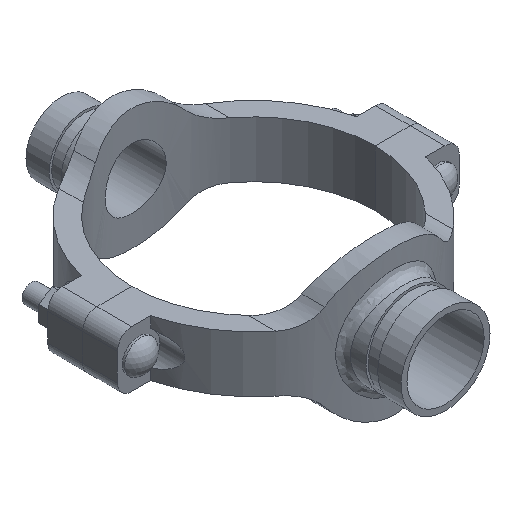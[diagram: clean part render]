
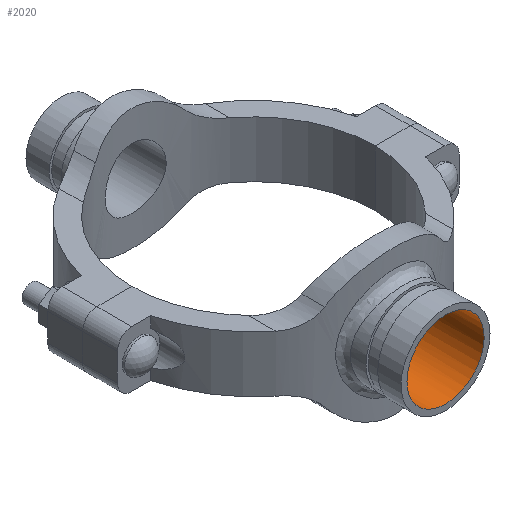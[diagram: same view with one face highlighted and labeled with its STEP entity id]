
A CAD part, isometric view. The second image highlights one B-rep face of the part: STEP entity #2020.
In plain terms, the highlighted cylindrical face has radius 26.194 mm (diameter 52.387 mm), a full revolution.
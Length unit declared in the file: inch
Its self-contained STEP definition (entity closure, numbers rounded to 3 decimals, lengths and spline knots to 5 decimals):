
#52=B_SPLINE_CURVE_WITH_KNOTS('',3,(#4076,#4077,#4078,#4079,#4080,#4081,
#4082,#4083,#4084,#4085,#4086,#4087,#4088,#4089,#4090,#4091,#4092,#4093,
#4094,#4095,#4096,#4097,#4098,#4099,#4100,#4101,#4102,#4103,#4104,#4105,
#4106,#4107,#4108,#4109,#4110,#4111,#4112,#4113,#4114,#4115,#4116,#4117,
#4118,#4119,#4120,#4121,#4122,#4123,#4124,#4125,#4126,#4127,#4128,#4129,
#4130,#4131,#4132,#4133,#4134,#4135,#4136,#4137,#4138,#4139,#4140,#4141),
 .UNSPECIFIED.,.T.,.F.,(4,2,2,2,2,2,2,2,2,2,2,2,2,2,2,2,2,2,2,2,2,2,2,2,
2,2,2,2,2,2,2,2,4),(0.,0.49717,0.99434,1.49151,
1.98868,2.48566,2.98264,3.47962,3.9766,
4.47359,4.97057,5.46755,5.96453,6.4617,
6.95887,7.45604,7.95321,8.45038,8.94755,
9.44472,9.94188,10.43887,10.93585,11.43283,
11.92981,12.42679,12.92378,13.42076,13.91774,
14.41491,14.91208,15.40925,15.90642),
 .UNSPECIFIED.);
#99=CYLINDRICAL_SURFACE('',#2261,1.03125);
#218=FACE_OUTER_BOUND('',#342,.T.);
#342=EDGE_LOOP('',(#1624,#1625,#1626,#1627));
#494=LINE('',#4075,#644);
#644=VECTOR('',#2736,1.03125);
#748=CIRCLE('',#2262,1.03125);
#917=VERTEX_POINT('',#4072);
#918=VERTEX_POINT('',#4074);
#1168=EDGE_CURVE('',#917,#917,#748,.T.);
#1169=EDGE_CURVE('',#917,#918,#494,.T.);
#1170=EDGE_CURVE('',#918,#918,#52,.T.);
#1624=ORIENTED_EDGE('',*,*,#1168,.F.);
#1625=ORIENTED_EDGE('',*,*,#1169,.T.);
#1626=ORIENTED_EDGE('',*,*,#1170,.F.);
#1627=ORIENTED_EDGE('',*,*,#1169,.F.);
#2020=ADVANCED_FACE('',(#218),#99,.F.);
#2261=AXIS2_PLACEMENT_3D('',#4071,#2732,#2733);
#2262=AXIS2_PLACEMENT_3D('',#4073,#2734,#2735);
#2732=DIRECTION('center_axis',(0.,-1.,0.));
#2733=DIRECTION('ref_axis',(-1.,0.,0.));
#2734=DIRECTION('center_axis',(0.,-1.,0.));
#2735=DIRECTION('ref_axis',(-1.,0.,0.));
#2736=DIRECTION('',(0.,-1.,0.));
#4071=CARTESIAN_POINT('Origin',(0.,5.13,0.));
#4072=CARTESIAN_POINT('',(1.03125,5.13,0.));
#4073=CARTESIAN_POINT('Origin',(0.,5.13,0.));
#4074=CARTESIAN_POINT('',(1.03125,3.08205,0.));
#4075=CARTESIAN_POINT('',(1.03125,5.13,0.));
#4076=CARTESIAN_POINT('Ctrl Pts',(1.03125,3.08205,0.));
#4077=CARTESIAN_POINT('Ctrl Pts',(1.03125,3.08205,-0.06525));
#4078=CARTESIAN_POINT('Ctrl Pts',(1.02496,3.08418,-0.13256));
#4079=CARTESIAN_POINT('Ctrl Pts',(0.99863,3.0928,-0.26616));
#4080=CARTESIAN_POINT('Ctrl Pts',(0.97861,3.09929,-0.33245));
#4081=CARTESIAN_POINT('Ctrl Pts',(0.92585,3.11545,-0.45934));
#4082=CARTESIAN_POINT('Ctrl Pts',(0.89308,3.12513,-0.52005));
#4083=CARTESIAN_POINT('Ctrl Pts',(0.81753,3.14574,-0.63221));
#4084=CARTESIAN_POINT('Ctrl Pts',(0.77474,3.15665,-0.68367));
#4085=CARTESIAN_POINT('Ctrl Pts',(0.68369,3.17762,-0.77472));
#4086=CARTESIAN_POINT('Ctrl Pts',(0.63224,3.18842,-0.81751));
#4087=CARTESIAN_POINT('Ctrl Pts',(0.52007,3.20863,-0.89307));
#4088=CARTESIAN_POINT('Ctrl Pts',(0.45935,3.21801,-0.92585));
#4089=CARTESIAN_POINT('Ctrl Pts',(0.33243,3.23359,-0.97862));
#4090=CARTESIAN_POINT('Ctrl Pts',(0.26613,3.23978,-0.99864));
#4091=CARTESIAN_POINT('Ctrl Pts',(0.13253,3.24799,-1.02496));
#4092=CARTESIAN_POINT('Ctrl Pts',(0.06522,3.25,-1.03125));
#4093=CARTESIAN_POINT('Ctrl Pts',(-0.06522,3.25,-1.03125));
#4094=CARTESIAN_POINT('Ctrl Pts',(-0.13253,3.24799,-1.02496));
#4095=CARTESIAN_POINT('Ctrl Pts',(-0.26613,3.23978,-0.99864));
#4096=CARTESIAN_POINT('Ctrl Pts',(-0.33243,3.23359,-0.97862));
#4097=CARTESIAN_POINT('Ctrl Pts',(-0.45935,3.21801,-0.92585));
#4098=CARTESIAN_POINT('Ctrl Pts',(-0.52007,3.20863,-0.89307));
#4099=CARTESIAN_POINT('Ctrl Pts',(-0.63224,3.18842,-0.81751));
#4100=CARTESIAN_POINT('Ctrl Pts',(-0.68369,3.17762,-0.77472));
#4101=CARTESIAN_POINT('Ctrl Pts',(-0.77474,3.15665,-0.68367));
#4102=CARTESIAN_POINT('Ctrl Pts',(-0.81753,3.14574,-0.63221));
#4103=CARTESIAN_POINT('Ctrl Pts',(-0.89308,3.12513,-0.52005));
#4104=CARTESIAN_POINT('Ctrl Pts',(-0.92585,3.11545,-0.45934));
#4105=CARTESIAN_POINT('Ctrl Pts',(-0.97861,3.09929,-0.33245));
#4106=CARTESIAN_POINT('Ctrl Pts',(-0.99863,3.0928,-0.26616));
#4107=CARTESIAN_POINT('Ctrl Pts',(-1.02496,3.08418,-0.13256));
#4108=CARTESIAN_POINT('Ctrl Pts',(-1.03125,3.08205,-0.06525));
#4109=CARTESIAN_POINT('Ctrl Pts',(-1.03125,3.08205,0.06525));
#4110=CARTESIAN_POINT('Ctrl Pts',(-1.02496,3.08418,0.13256));
#4111=CARTESIAN_POINT('Ctrl Pts',(-0.99863,3.0928,0.26616));
#4112=CARTESIAN_POINT('Ctrl Pts',(-0.97861,3.09929,0.33245));
#4113=CARTESIAN_POINT('Ctrl Pts',(-0.92585,3.11545,0.45934));
#4114=CARTESIAN_POINT('Ctrl Pts',(-0.89308,3.12513,0.52005));
#4115=CARTESIAN_POINT('Ctrl Pts',(-0.81753,3.14574,0.63221));
#4116=CARTESIAN_POINT('Ctrl Pts',(-0.77474,3.15665,0.68367));
#4117=CARTESIAN_POINT('Ctrl Pts',(-0.68369,3.17762,0.77472));
#4118=CARTESIAN_POINT('Ctrl Pts',(-0.63224,3.18842,0.81751));
#4119=CARTESIAN_POINT('Ctrl Pts',(-0.52007,3.20863,0.89307));
#4120=CARTESIAN_POINT('Ctrl Pts',(-0.45935,3.21801,0.92585));
#4121=CARTESIAN_POINT('Ctrl Pts',(-0.33243,3.23359,0.97862));
#4122=CARTESIAN_POINT('Ctrl Pts',(-0.26613,3.23978,0.99864));
#4123=CARTESIAN_POINT('Ctrl Pts',(-0.13253,3.24799,1.02496));
#4124=CARTESIAN_POINT('Ctrl Pts',(-0.06522,3.25,1.03125));
#4125=CARTESIAN_POINT('Ctrl Pts',(0.06522,3.25,1.03125));
#4126=CARTESIAN_POINT('Ctrl Pts',(0.13253,3.24799,1.02496));
#4127=CARTESIAN_POINT('Ctrl Pts',(0.26613,3.23978,0.99864));
#4128=CARTESIAN_POINT('Ctrl Pts',(0.33243,3.23359,0.97862));
#4129=CARTESIAN_POINT('Ctrl Pts',(0.45935,3.21801,0.92585));
#4130=CARTESIAN_POINT('Ctrl Pts',(0.52007,3.20863,0.89307));
#4131=CARTESIAN_POINT('Ctrl Pts',(0.63224,3.18842,0.81751));
#4132=CARTESIAN_POINT('Ctrl Pts',(0.68369,3.17762,0.77472));
#4133=CARTESIAN_POINT('Ctrl Pts',(0.77474,3.15665,0.68367));
#4134=CARTESIAN_POINT('Ctrl Pts',(0.81753,3.14574,0.63221));
#4135=CARTESIAN_POINT('Ctrl Pts',(0.89308,3.12513,0.52005));
#4136=CARTESIAN_POINT('Ctrl Pts',(0.92585,3.11545,0.45934));
#4137=CARTESIAN_POINT('Ctrl Pts',(0.97861,3.09929,0.33245));
#4138=CARTESIAN_POINT('Ctrl Pts',(0.99863,3.0928,0.26616));
#4139=CARTESIAN_POINT('Ctrl Pts',(1.02496,3.08418,0.13256));
#4140=CARTESIAN_POINT('Ctrl Pts',(1.03125,3.08205,0.06525));
#4141=CARTESIAN_POINT('Ctrl Pts',(1.03125,3.08205,0.));
